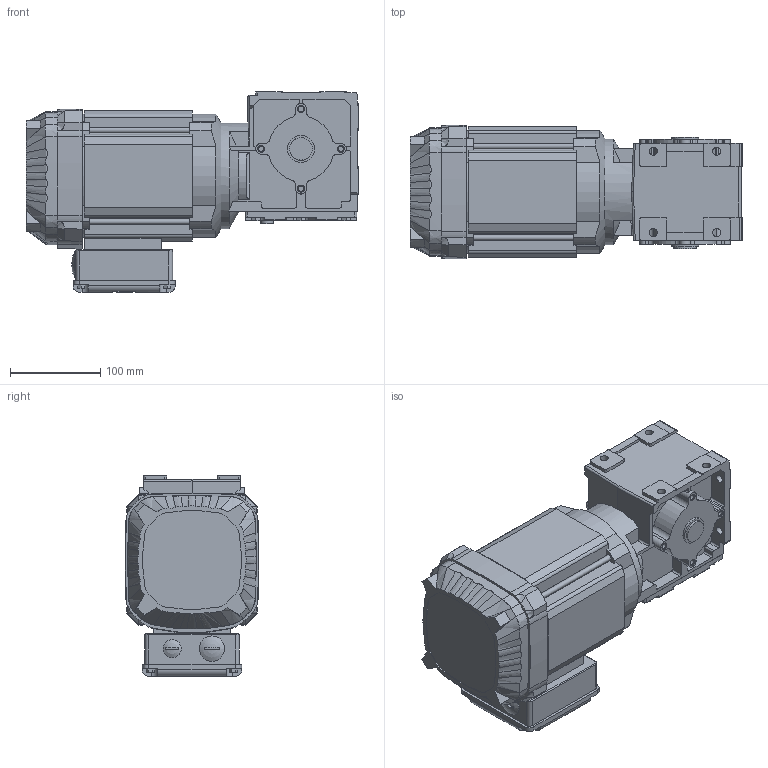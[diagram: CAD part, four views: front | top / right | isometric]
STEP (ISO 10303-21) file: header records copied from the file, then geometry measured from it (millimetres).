
FILE_DESCRIPTION(/* description */ ('SEW WA30 WITH MOTOR 0,55kW'),/* implementation_level */ '2;1');
FILE_NAME(/* name */ 'C:\Users\mikael.ljungberg\OneDrive - Carryline AB\Skrivbordet\Tillfalliga_filer\900-4045.stp',/* time_stamp */ '2021-04-22T08:37:50+02:00',/* author */ ('ML'),/* organization */ ('CARRYLINE'),/* preprocessor_version */ 'ST-DEVELOPER v18.1',/* originating_system */ 'Autodesk Inventor 2020',/* authorisation */ 'ML');
FILE_SCHEMA (('AUTOMOTIVE_DESIGN { 1 0 10303 214 3 1 1 }'));
Length unit declared in the file: millimetre
Products named in the file (1): 900-4045
Bounding box: 367 x 147.78 x 221.5 mm (x, y, z)
Volume: 6072675.6 mm3; surface area: 323670.3 mm2
Topology: 1 solids, 4 shells, 854 faces, 2413 edges, 1599 vertices
Faces by surface type: plane 432, cylinder 304, bspline 69, cone 47, sphere 2
Full cylindrical faces by diameter (mm): 4 x1, 6 x13, 9 x8, 14 x1, 20 x1, 25 x1, 28 x1, 30 x2, 117 x1
Entity records: 33049 total; most frequent: CARTESIAN_POINT 10753, ORIENTED_EDGE 4824, DIRECTION 4534, EDGE_CURVE 2412, VERTEX_POINT 1599, AXIS2_PLACEMENT_3D 1555, LINE 1424, VECTOR 1424
